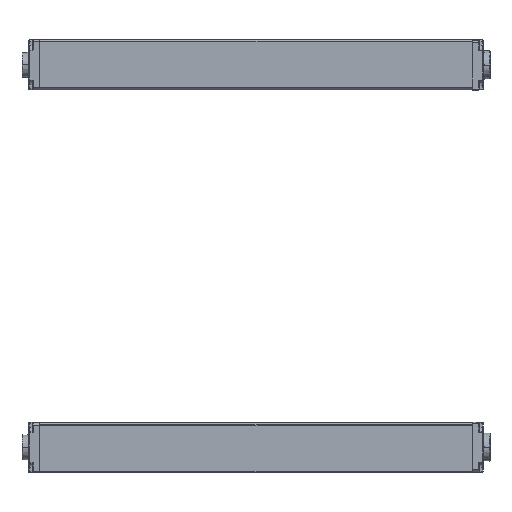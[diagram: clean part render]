
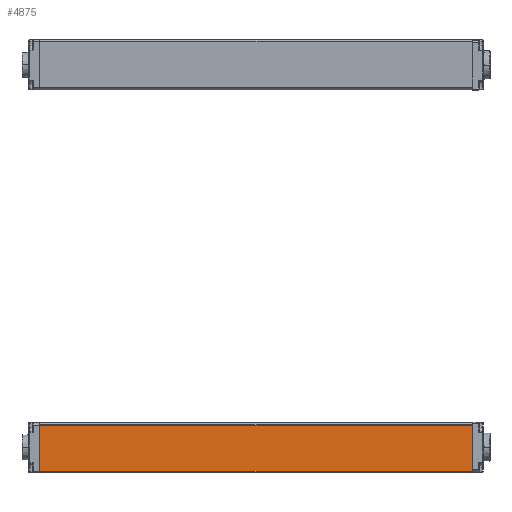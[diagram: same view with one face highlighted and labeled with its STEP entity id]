
A CAD part, left-side view. The second image highlights one B-rep face of the part: STEP entity #4875.
In plain terms, the highlighted planar face has unit normal (-1, 0, -0.009) as drawn and (1, 0, 0) by its records, which use the part's own axes.
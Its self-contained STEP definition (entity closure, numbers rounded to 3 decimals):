
#2 = DIRECTION ( 'NONE',  ( 0., 0., -1. ) ) ;
#617 = ORIENTED_EDGE ( 'NONE', *, *, #3795, .T. ) ;
#961 = CARTESIAN_POINT ( 'NONE',  ( 15., 0., -16.693 ) ) ;
#1350 = CARTESIAN_POINT ( 'NONE',  ( 15., 0., 10.9 ) ) ;
#1447 = CARTESIAN_POINT ( 'NONE',  ( 15., 260., 10.9 ) ) ;
#1515 = VECTOR ( 'NONE', #14809, 1000. ) ;
#1629 = VECTOR ( 'NONE', #2, 1000. ) ;
#2647 = EDGE_LOOP ( 'NONE', ( #4719, #617, #6667, #9486 ) ) ;
#2942 = VECTOR ( 'NONE', #5078, 1000. ) ;
#3026 = DIRECTION ( 'NONE',  ( 0., 0., 1. ) ) ;
#3207 = VERTEX_POINT ( 'NONE', #10278 ) ;
#3708 = LINE ( 'NONE', #9264, #1515 ) ;
#3795 = EDGE_CURVE ( 'NONE', #12383, #3207, #3708, .T. ) ;
#4384 = PLANE ( 'NONE',  #11253 ) ;
#4719 = ORIENTED_EDGE ( 'NONE', *, *, #11658, .T. ) ;
#4804 = DIRECTION ( 'NONE',  ( 0., 0., -1. ) ) ;
#4875 = ADVANCED_FACE ( 'NONE', ( #16865 ), #4384, .F. ) ;
#5078 = DIRECTION ( 'NONE',  ( 0., -1., 0. ) ) ;
#5973 = VERTEX_POINT ( 'NONE', #1447 ) ;
#6266 = EDGE_CURVE ( 'NONE', #5973, #12091, #12010, .T. ) ;
#6667 = ORIENTED_EDGE ( 'NONE', *, *, #17376, .F. ) ;
#6913 = LINE ( 'NONE', #12466, #1629 ) ;
#9264 = CARTESIAN_POINT ( 'NONE',  ( 15., 260., -16.693 ) ) ;
#9486 = ORIENTED_EDGE ( 'NONE', *, *, #6266, .T. ) ;
#9952 = CARTESIAN_POINT ( 'NONE',  ( 15., 260., -16.9 ) ) ;
#10278 = CARTESIAN_POINT ( 'NONE',  ( 15., 260., -16.693 ) ) ;
#11253 = AXIS2_PLACEMENT_3D ( 'NONE', #9952, #15504, #3026 ) ;
#11658 = EDGE_CURVE ( 'NONE', #12091, #12383, #6913, .T. ) ;
#11735 = LINE ( 'NONE', #17278, #12575 ) ;
#12010 = LINE ( 'NONE', #17549, #2942 ) ;
#12091 = VERTEX_POINT ( 'NONE', #1350 ) ;
#12383 = VERTEX_POINT ( 'NONE', #961 ) ;
#12466 = CARTESIAN_POINT ( 'NONE',  ( 15., 0., -16.9 ) ) ;
#12575 = VECTOR ( 'NONE', #4804, 1000. ) ;
#14809 = DIRECTION ( 'NONE',  ( 0., 1., 0. ) ) ;
#15504 = DIRECTION ( 'NONE',  ( -1., 0., 0. ) ) ;
#16865 = FACE_OUTER_BOUND ( 'NONE', #2647, .T. ) ;
#17278 = CARTESIAN_POINT ( 'NONE',  ( 15., 260., -16.9 ) ) ;
#17376 = EDGE_CURVE ( 'NONE', #5973, #3207, #11735, .T. ) ;
#17549 = CARTESIAN_POINT ( 'NONE',  ( 15., 260., 10.9 ) ) ;
